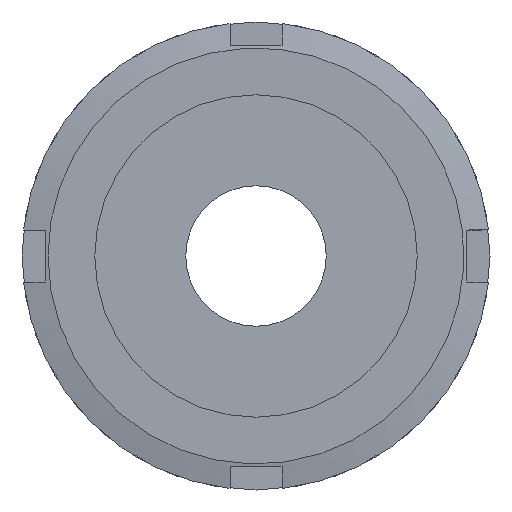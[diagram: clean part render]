
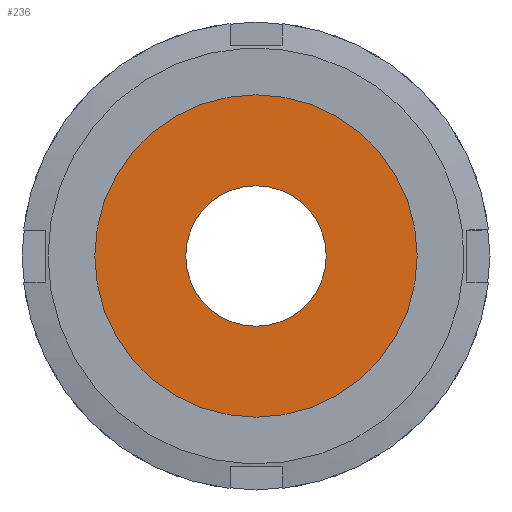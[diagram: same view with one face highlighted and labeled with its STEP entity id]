
A CAD part, left-side view. The second image highlights one B-rep face of the part: STEP entity #236.
In plain terms, the highlighted planar face has unit normal (-1, 0, 0) as drawn and (0, -1, 0) by its records, which use the part's own axes.
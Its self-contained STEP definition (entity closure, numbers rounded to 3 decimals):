
#236 = ADVANCED_FACE( '', ( #342, #343 ), #344, .T. );
#342 = FACE_OUTER_BOUND( '', #497, .T. );
#343 = FACE_BOUND( '', #498, .T. );
#344 = PLANE( '', #499 );
#497 = EDGE_LOOP( '', ( #795 ) );
#498 = EDGE_LOOP( '', ( #796 ) );
#499 = AXIS2_PLACEMENT_3D( '', #797, #798, #799 );
#795 = ORIENTED_EDGE( '', *, *, #1079, .T. );
#796 = ORIENTED_EDGE( '', *, *, #1080, .F. );
#797 = CARTESIAN_POINT( '', ( 6.75, 0., 0. ) );
#798 = DIRECTION( '', ( 0., -1., 0. ) );
#799 = DIRECTION( '', ( 0., 0., -1. ) );
#1079 = EDGE_CURVE( '', #1252, #1252, #1253, .T. );
#1080 = EDGE_CURVE( '', #1254, #1254, #1255, .T. );
#1252 = VERTEX_POINT( '', #1616 );
#1253 = CIRCLE( '', #1617, 15.5 );
#1254 = VERTEX_POINT( '', #1618 );
#1255 = CIRCLE( '', #1619, 6.75 );
#1616 = CARTESIAN_POINT( '', ( 0., 0., -15.5 ) );
#1617 = AXIS2_PLACEMENT_3D( '', #1863, #1864, #1865 );
#1618 = CARTESIAN_POINT( '', ( 0., 0., -6.75 ) );
#1619 = AXIS2_PLACEMENT_3D( '', #1866, #1867, #1868 );
#1863 = CARTESIAN_POINT( '', ( 0., 0., 0. ) );
#1864 = DIRECTION( '', ( 0., -1., 0. ) );
#1865 = DIRECTION( '', ( 0., 0., -1. ) );
#1866 = CARTESIAN_POINT( '', ( 0., 0., 0. ) );
#1867 = DIRECTION( '', ( 0., -1., 0. ) );
#1868 = DIRECTION( '', ( 0., 0., -1. ) );
